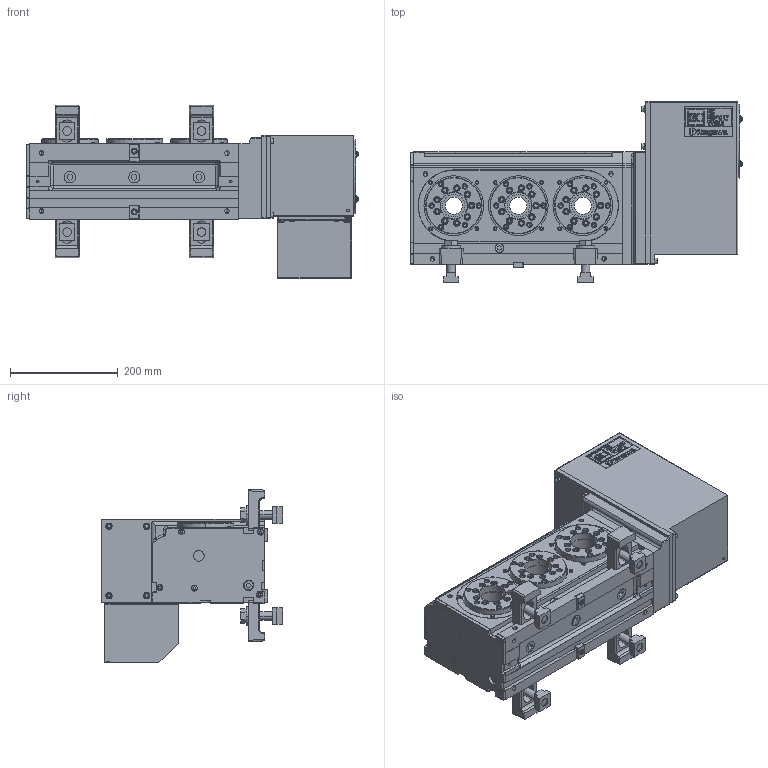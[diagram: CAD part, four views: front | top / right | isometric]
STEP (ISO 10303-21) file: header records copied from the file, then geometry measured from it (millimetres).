
FILE_DESCRIPTION (( 'STEP AP214' ), '1' );
FILE_NAME ('TM3100AF.STEP', '2020-01-16T03:59:00', ( '' ), ( '' ), 'SwSTEP 2.0', 'SolidWorks 2017', '' );
FILE_SCHEMA (( 'AUTOMOTIVE_DESIGN' ));
Length unit declared in the file: millimetre
Products named in the file (15): フランジ(61E8110110)TM3100AF02; キタガワシール; ガイドブロック(61M4197783); TM3100A00僋儈僞僥(61E109612); テーブル（61E359627）; 僇僶乕A乮61E444418乯; ギヤボックス（61E241106）; 儂儞僞僀丂ASSY乮61E113005乯TM3100A00; TM3100AF; CLAMPING PARTS(61E424758)結合; TM3100AF06儂儞僞僀; コネクタカバー（61E3639910）; コネクタプレート（61E4465853）TB200A4F24; 僇僶乕丂俹(61E4458433)MR250RAM01; モータケース(61E2812630)TM2100AE04
Assembly tree (20 placements, depth 4):
  TM3100AF
    TM3100AF06儂儞僞僀
      TM3100A00僋儈僞僥(61E109612)
        儂儞僞僀丂ASSY乮61E113005乯TM3100A00
        ギヤボックス（61E241106）
        僇僶乕A乮61E444418乯
        テーブル（61E359627）  x3
      ガイドブロック(61M4197783)  x2
      キタガワシール
      フランジ(61E8110110)TM3100AF02
      モータケース(61E2812630)TM2100AE04
      僇僶乕丂俹(61E4458433)MR250RAM01
      コネクタプレート（61E4465853）TB200A4F24
      コネクタカバー（61E3639910）
    CLAMPING PARTS(61E424758)結合  x4
Bounding box: 617.7 x 337 x 323 mm (x, y, z)
Volume: 19758975.4 mm3; surface area: 1326476.7 mm2
Topology: 18 solids, 18 shells, 3528 faces, 9000 edges, 5830 vertices
Faces by surface type: plane 2430, cylinder 762, cone 244, torus 78, bspline 9, sphere 5
Entity records: 100486 total; most frequent: CARTESIAN_POINT 15708, ORIENTED_EDGE 15130, DIRECTION 14806, EDGE_CURVE 7565, VECTOR 6146, LINE 6146, VERTEX_POINT 4966, AXIS2_PLACEMENT_3D 4330
